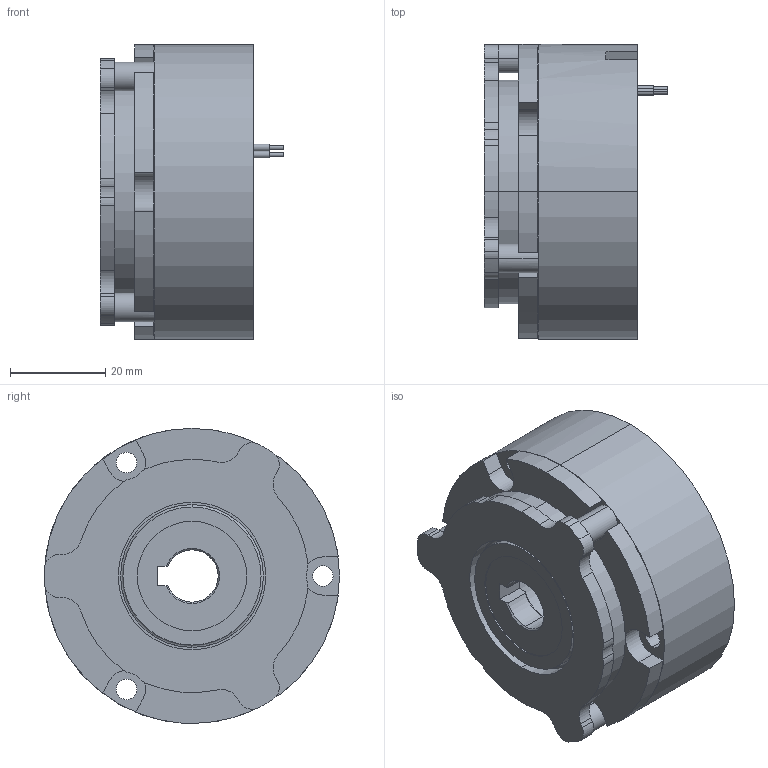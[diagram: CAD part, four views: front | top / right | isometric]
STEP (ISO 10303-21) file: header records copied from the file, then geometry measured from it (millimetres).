
FILE_DESCRIPTION (( 'STEP AP203' ), '1' );
FILE_NAME ('KS_10106A00_00485091.STEP', '2017-11-21T12:44:01', ( '' ), ( '' ), 'SwSTEP 2.0', 'SolidWorks 2015', '' );
FILE_SCHEMA (( 'CONFIG_CONTROL_DESIGN' ));
Length unit declared in the file: millimetre
Products named in the file (1): KS_10106A00_00485091
Bounding box: 38.59 x 62 x 62 mm (x, y, z)
Volume: 79775.4 mm3; surface area: 21392.5 mm2
Topology: 1 solids, 1 shells, 151 faces, 389 edges, 255 vertices
Faces by surface type: cylinder 97, plane 44, cone 6, torus 4
Entity records: 4802 total; most frequent: DIRECTION 903, CARTESIAN_POINT 808, ORIENTED_EDGE 778, EDGE_CURVE 389, AXIS2_PLACEMENT_3D 366, VERTEX_POINT 255, CIRCLE 214, EDGE_LOOP 180
